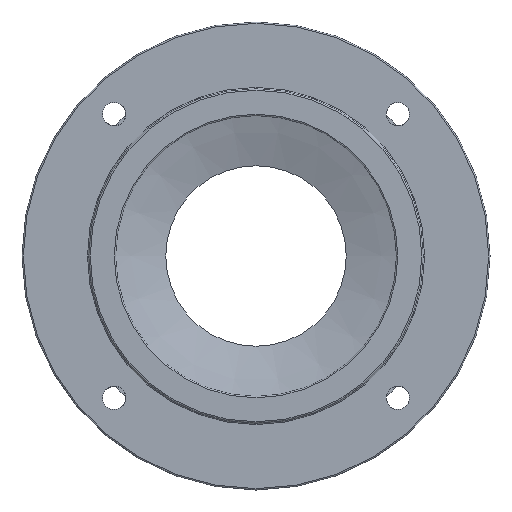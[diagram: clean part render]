
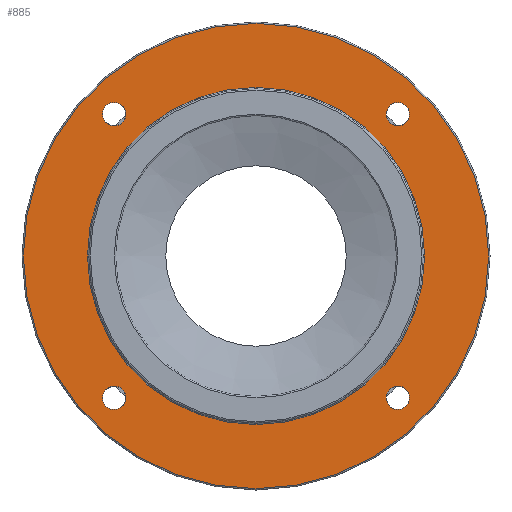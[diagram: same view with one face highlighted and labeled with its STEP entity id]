
A CAD part, front view. The second image highlights one B-rep face of the part: STEP entity #885.
In plain terms, the highlighted planar face has unit normal (0, -1, 0).
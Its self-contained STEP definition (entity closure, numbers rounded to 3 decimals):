
#186=CARTESIAN_POINT('',(-97.316,-34.,106.066));
#187=VERTEX_POINT('',#186);
#188=CARTESIAN_POINT('',(-106.066,-34.,106.066));
#189=DIRECTION('',(0.0,1.0,0.0));
#190=DIRECTION('',(1.0,0.0,0.0));
#191=AXIS2_PLACEMENT_3D('',#188,#189,#190);
#192=CIRCLE('',#191,8.75);
#193=EDGE_CURVE('',#187,#187,#192,.T.);
#316=CARTESIAN_POINT('',(-97.316,-34.,-106.066));
#317=VERTEX_POINT('',#316);
#318=CARTESIAN_POINT('',(-106.066,-34.,-106.066));
#319=DIRECTION('',(0.0,1.0,0.0));
#320=DIRECTION('',(1.0,0.0,0.0));
#321=AXIS2_PLACEMENT_3D('',#318,#319,#320);
#322=CIRCLE('',#321,8.75);
#323=EDGE_CURVE('',#317,#317,#322,.T.);
#446=CARTESIAN_POINT('',(114.816,-34.,-106.066));
#447=VERTEX_POINT('',#446);
#448=CARTESIAN_POINT('',(106.066,-34.,-106.066));
#449=DIRECTION('',(0.0,1.0,0.0));
#450=DIRECTION('',(1.0,0.0,0.0));
#451=AXIS2_PLACEMENT_3D('',#448,#449,#450);
#452=CIRCLE('',#451,8.75);
#453=EDGE_CURVE('',#447,#447,#452,.T.);
#576=CARTESIAN_POINT('',(114.816,-34.,106.066));
#577=VERTEX_POINT('',#576);
#578=CARTESIAN_POINT('',(106.066,-34.,106.066));
#579=DIRECTION('',(0.0,1.0,0.0));
#580=DIRECTION('',(1.0,0.0,0.0));
#581=AXIS2_PLACEMENT_3D('',#578,#579,#580);
#582=CIRCLE('',#581,8.75);
#583=EDGE_CURVE('',#577,#577,#582,.T.);
#839=CARTESIAN_POINT('',(-174.0,-34.,0.0));
#840=VERTEX_POINT('',#839);
#841=CARTESIAN_POINT('',(0.0,-34.,0.0));
#842=DIRECTION('',(0.0,1.0,0.0));
#843=DIRECTION('',(1.0,0.0,0.0));
#844=AXIS2_PLACEMENT_3D('',#841,#842,#843);
#845=CIRCLE('',#844,174.0);
#846=EDGE_CURVE('',#840,#840,#845,.T.);
#854=CARTESIAN_POINT('',(-150.0,-34.,0.));
#855=DIRECTION('',(0.0,-1.0,0.0));
#856=DIRECTION('',(0.0,0.0,-1.0));
#857=AXIS2_PLACEMENT_3D('',#854,#855,#856);
#858=PLANE('',#857);
#859=ORIENTED_EDGE('',*,*,#846,.F.);
#860=EDGE_LOOP('',(#859));
#861=FACE_OUTER_BOUND('',#860,.T.);
#862=ORIENTED_EDGE('',*,*,#193,.T.);
#863=EDGE_LOOP('',(#862));
#864=FACE_BOUND('',#863,.T.);
#865=ORIENTED_EDGE('',*,*,#323,.T.);
#866=EDGE_LOOP('',(#865));
#867=FACE_BOUND('',#866,.T.);
#868=ORIENTED_EDGE('',*,*,#453,.T.);
#869=EDGE_LOOP('',(#868));
#870=FACE_BOUND('',#869,.T.);
#871=ORIENTED_EDGE('',*,*,#583,.T.);
#872=EDGE_LOOP('',(#871));
#873=FACE_BOUND('',#872,.T.);
#874=CARTESIAN_POINT('',(-126.0,-34.,0.));
#875=VERTEX_POINT('',#874);
#876=CARTESIAN_POINT('',(0.0,-34.,0.0));
#877=DIRECTION('',(0.0,-1.0,0.0));
#878=DIRECTION('',(1.0,0.0,0.0));
#879=AXIS2_PLACEMENT_3D('',#876,#877,#878);
#880=CIRCLE('',#879,126.0);
#881=EDGE_CURVE('',#875,#875,#880,.T.);
#882=ORIENTED_EDGE('',*,*,#881,.F.);
#883=EDGE_LOOP('',(#882));
#884=FACE_BOUND('',#883,.T.);
#885=ADVANCED_FACE('',(#861,#864,#867,#870,#873,#884),#858,.T.);
